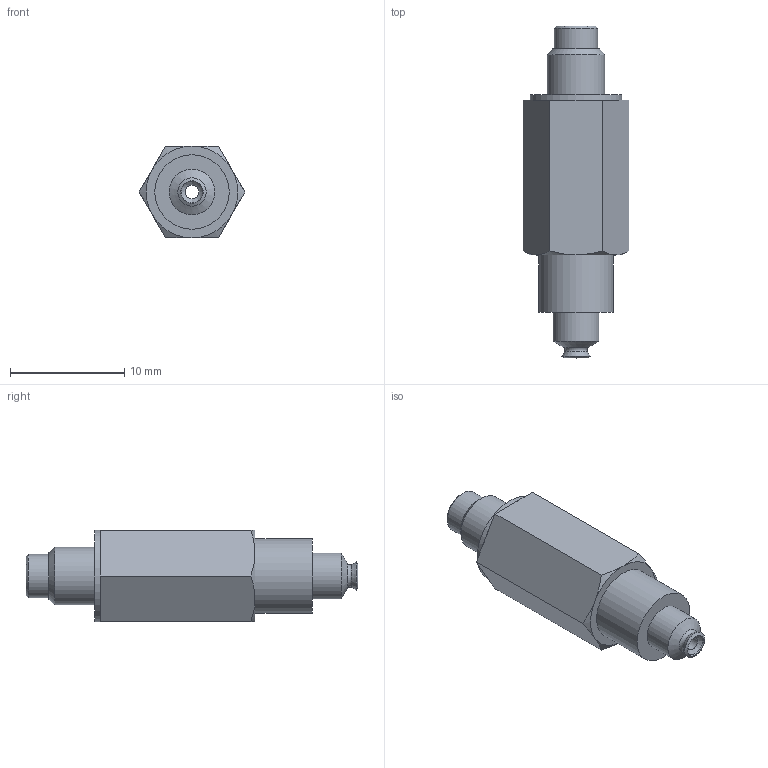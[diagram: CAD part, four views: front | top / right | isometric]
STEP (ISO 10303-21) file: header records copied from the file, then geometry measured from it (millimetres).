
FILE_DESCRIPTION(('STEP AP203'),'1');
FILE_NAME('.stp','2025-04-07T02:31:29',(' '),(' '),'Spatial InterOp 3D',' ',' ');
FILE_SCHEMA(('CONFIG_CONTROL_DESIGN'));
Length unit declared in the file: millimetre
Products named in the file (4): BPSS-S5-BPFG-2A-※; PSS-S5-PFG-1.5A M body; PSS-S5-PFG-1.5A F body; BPFG-2A-※
Assembly tree (3 placements, depth 2):
  BPSS-S5-BPFG-2A-※
    PSS-S5-PFG-1.5A M body
    PSS-S5-PFG-1.5A F body
    BPFG-2A-※
Bounding box: 9.24 x 29 x 8 mm (x, y, z)
Volume: 916 mm3; surface area: 1434.5 mm2
Topology: 3 solids, 3 shells, 62 faces, 119 edges, 71 vertices
Faces by surface type: plane 26, cylinder 15, cone 12, torus 8, bspline 1
Full cylindrical faces by diameter (mm): 1.2 x2, 2 x2, 2.5 x2, 3 x2, 3.5 x1, 3.8 x1, 4 x1, 5 x1, 6.5 x2, 8 x1
Entity records: 1607 total; most frequent: CARTESIAN_POINT 269, DIRECTION 258, ORIENTED_EDGE 170, AXIS2_PLACEMENT_3D 120, EDGE_LOOP 106, FACE_OUTER_BOUND 86, EDGE_CURVE 85, VERTEX_POINT 67
